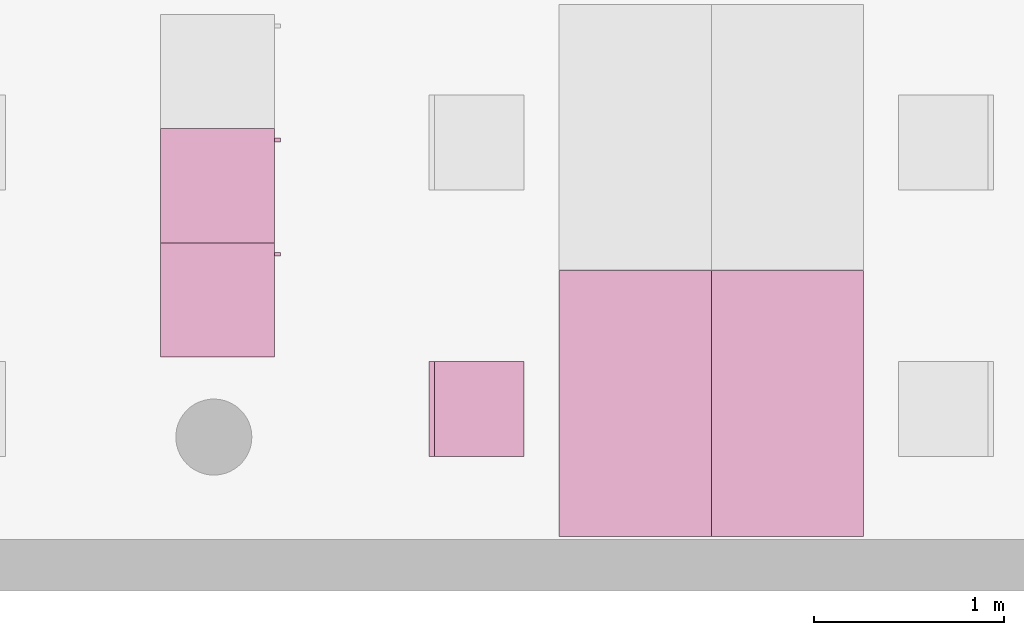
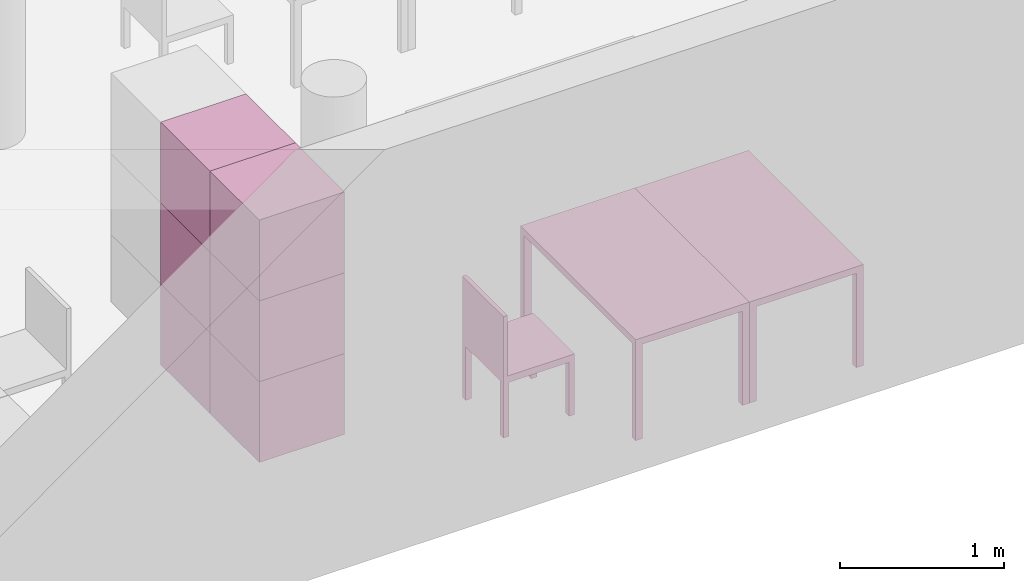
"""IFC4 building model written with IfcOpenShell, lengths in metres."""

from ifc_helpers import new_model, entity, si_unit, converted_unit, derived_unit, frame, origin, place, context, subcontext, project, spatial, faceted_brep, element, save


model = new_model("IFC4")

# Units and contexts
model_context = context("Model", 3, precision=1e-05, world=origin())
body_context = subcontext(model_context, "Body", "Model", "MODEL_VIEW")
ifc_project = project(units=[si_unit("LENGTHUNIT", "METRE"), si_unit("AREAUNIT", "SQUARE_METRE"), si_unit("VOLUMEUNIT", "CUBIC_METRE"), si_unit("MASSUNIT", "GRAM", prefix="KILO"), converted_unit("PLANEANGLEUNIT", "DEGREE", entity("IfcPlaneAngleMeasure", 0.0174532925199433), si_unit("PLANEANGLEUNIT", "RADIAN"), dimensions=[0, 0, 0, 0, 0, 0, 0]), derived_unit("THERMALTRANSMITTANCEUNIT", [(si_unit("POWERUNIT", "WATT"), 1), (si_unit("THERMODYNAMICTEMPERATUREUNIT", "KELVIN"), -1), (si_unit("LENGTHUNIT", "METRE"), -2)]), derived_unit("VOLUMETRICFLOWRATEUNIT", [(si_unit("LENGTHUNIT", "METRE"), 3), (converted_unit("TIMEUNIT", "hour", entity("IfcTimeMeasure", 3600.0), si_unit("TIMEUNIT", "SECOND"), dimensions=[0, 0, 1, 0, 0, 0, 0]), -1), (si_unit("LENGTHUNIT", "METRE"), -1)])], contexts=[model_context])

# Building, storeys
building_placement = place(None, origin())
building = spatial("IfcBuilding", under=ifc_project, at=building_placement, Name="HABITATGE PLURIFAMILIAR", CompositionType="ELEMENT")
storey_1_placement = place(building_placement, frame((0.0, 0.0, 12.27)))
storey_1 = spatial("IfcBuildingStorey", under=building, at=storey_1_placement, Name="PLANTA TERCERA", CompositionType="ELEMENT", Elevation=12.27)
storey_2_placement = place(storey_1_placement, frame((0.0, 0.0, 9.26)))
storey_2 = spatial("IfcBuildingStorey", under=storey_1, at=storey_2_placement, Name="NOU", CompositionType="PARTIAL")

# Furniture
furniture_1_placement = place(storey_2_placement, frame((418.75287675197, 13.1268712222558, -9.3599999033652)))
element("IfcFurniture", 1, at=furniture_1_placement, inside=storey_2, Name="Taula 140X80_P3", context=body_context, shape_type="Brep", body=[
    faceted_brep([(0.05, 0.0437500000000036, 0.0), (0.0, 0.0437500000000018, 0.0), (0.0, 0.0, 0.0), (0.05, 0.0, 0.0), (0.0, 0.0437500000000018, 0.7), (0.05, 0.0437500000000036, 0.7), (0.05, 0.0, 0.7), (0.0, 0.0, 0.7)], [[[0, 1, 2, 3]], [[4, 5, 6, 7]], [[1, 0, 5, 4]], [[2, 1, 4, 7]], [[3, 2, 7, 6]], [[0, 3, 6, 5]]], orient=[[False], [False], [False], [False], [False], [False]]),
    faceted_brep([(0.800069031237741, 0.0437500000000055, 0.0), (0.750069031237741, 0.0437500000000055, 0.0), (0.750069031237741, 0.0, 0.0), (0.800069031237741, 0.0, 0.0), (0.750069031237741, 0.0437500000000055, 0.7), (0.800069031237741, 0.0437500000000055, 0.7), (0.800069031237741, 0.0, 0.7), (0.750069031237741, 0.0, 0.7)], [[[0, 1, 2, 3]], [[4, 5, 6, 7]], [[1, 0, 5, 4]], [[2, 1, 4, 7]], [[3, 2, 7, 6]], [[0, 3, 6, 5]]], orient=[[False], [False], [False], [False], [False], [False]]),
    faceted_brep([(0.800069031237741, 1.39732768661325, 0.7), (0.0, 1.39732768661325, 0.7), (0.0, 0.0, 0.7), (0.800069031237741, 0.0, 0.7), (0.0, 1.39732768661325, 0.75), (0.800069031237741, 1.39732768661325, 0.75), (0.800069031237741, 0.0, 0.75), (0.0, 0.0, 0.75)], [[[0, 1, 2, 3]], [[4, 5, 6, 7]], [[1, 0, 5, 4]], [[2, 1, 4, 7]], [[3, 2, 7, 6]], [[0, 3, 6, 5]]], orient=[[False], [False], [False], [False], [False], [False]]),
    faceted_brep([(0.05, 1.39732768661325, 0.0), (0.0, 1.39732768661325, 0.0), (0.0, 1.35357768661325, 0.0), (0.05, 1.35357768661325, 0.0), (0.0, 1.39732768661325, 0.7), (0.05, 1.39732768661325, 0.7), (0.05, 1.35357768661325, 0.7), (0.0, 1.35357768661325, 0.7)], [[[0, 1, 2, 3]], [[4, 5, 6, 7]], [[1, 0, 5, 4]], [[2, 1, 4, 7]], [[3, 2, 7, 6]], [[0, 3, 6, 5]]], orient=[[False], [False], [False], [False], [False], [False]]),
    faceted_brep([(0.800069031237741, 1.39732768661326, 0.0), (0.750069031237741, 1.39732768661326, 0.0), (0.750069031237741, 1.35357768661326, 0.0), (0.800069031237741, 1.35357768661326, 0.0), (0.750069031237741, 1.39732768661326, 0.7), (0.800069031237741, 1.39732768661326, 0.7), (0.800069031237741, 1.35357768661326, 0.7), (0.750069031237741, 1.35357768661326, 0.7)], [[[0, 1, 2, 3]], [[4, 5, 6, 7]], [[1, 0, 5, 4]], [[2, 1, 4, 7]], [[3, 2, 7, 6]], [[0, 3, 6, 5]]], orient=[[False], [False], [False], [False], [False], [False]]),
])
furniture_2_placement = place(storey_2_placement, frame((417.952807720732, 13.1268712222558, -9.3599999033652)))
element("IfcFurniture", 2, at=furniture_2_placement, inside=storey_2, Name="Taula 140X80_P3", context=body_context, shape_type="Brep", body=[
    faceted_brep([(0.750069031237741, 0.0437500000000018, 0.0), (0.750069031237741, 0.0, 0.0), (0.800069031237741, 0.0, 0.0), (0.800069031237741, 0.0437500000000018, 0.0), (0.800069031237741, 0.0437500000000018, 0.7), (0.800069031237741, 0.0, 0.7), (0.750069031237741, 0.0, 0.7), (0.750069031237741, 0.0437500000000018, 0.7)], [[[0, 1, 2, 3]], [[4, 5, 6, 7]], [[3, 4, 7, 0]], [[2, 5, 4, 3]], [[1, 6, 5, 2]], [[0, 7, 6, 1]]], orient=[[False], [False], [False], [False], [False], [False]]),
    faceted_brep([(0.0, 0.0437500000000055, 0.0), (0.0, 0.0, 0.0), (0.05, 0.0, 0.0), (0.05, 0.0437500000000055, 0.0), (0.05, 0.0437500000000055, 0.7), (0.05, 0.0, 0.7), (0.0, 0.0, 0.7), (0.0, 0.0437500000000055, 0.7)], [[[0, 1, 2, 3]], [[4, 5, 6, 7]], [[3, 4, 7, 0]], [[2, 5, 4, 3]], [[1, 6, 5, 2]], [[0, 7, 6, 1]]], orient=[[False], [False], [False], [False], [False], [False]]),
    faceted_brep([(0.0, 1.39732768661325, 0.7), (0.0, 0.0, 0.7), (0.800069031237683, 0.0, 0.7), (0.800069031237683, 1.39732768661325, 0.7), (0.800069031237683, 1.39732768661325, 0.75), (0.800069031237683, 0.0, 0.75), (0.0, 0.0, 0.75), (0.0, 1.39732768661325, 0.75)], [[[0, 1, 2, 3]], [[4, 5, 6, 7]], [[3, 4, 7, 0]], [[2, 5, 4, 3]], [[1, 6, 5, 2]], [[0, 7, 6, 1]]], orient=[[False], [False], [False], [False], [False], [False]]),
    faceted_brep([(0.750069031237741, 1.39732768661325, 0.0), (0.750069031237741, 1.35357768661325, 0.0), (0.800069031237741, 1.35357768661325, 0.0), (0.800069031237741, 1.39732768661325, 0.0), (0.800069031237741, 1.39732768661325, 0.7), (0.800069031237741, 1.35357768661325, 0.7), (0.750069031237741, 1.35357768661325, 0.7), (0.750069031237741, 1.39732768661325, 0.7)], [[[0, 1, 2, 3]], [[4, 5, 6, 7]], [[3, 4, 7, 0]], [[2, 5, 4, 3]], [[1, 6, 5, 2]], [[0, 7, 6, 1]]], orient=[[False], [False], [False], [False], [False], [False]]),
    faceted_brep([(0.0, 1.39732768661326, 0.0), (0.0, 1.35357768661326, 0.0), (0.05, 1.35357768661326, 0.0), (0.05, 1.39732768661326, 0.0), (0.05, 1.39732768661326, 0.7), (0.05, 1.35357768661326, 0.7), (0.0, 1.35357768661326, 0.7), (0.0, 1.39732768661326, 0.7)], [[[0, 1, 2, 3]], [[4, 5, 6, 7]], [[3, 4, 7, 0]], [[2, 5, 4, 3]], [[1, 6, 5, 2]], [[0, 7, 6, 1]]], orient=[[False], [False], [False], [False], [False], [False]]),
])
furniture_3_placement = place(storey_2_placement, frame((415.856984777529, 14.6711705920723, -9.3599999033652)))
element("IfcFurniture", 3, at=furniture_3_placement, inside=storey_2, Name="Armai 60x60x60_P3", context=body_context, shape_type="Brep", body=[
    faceted_brep([(0.6, 0.600000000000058, 0.02), (0.6, 0.600000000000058, 0.0), (0.6, 0.0, 0.0), (0.6, 0.0, 0.02), (0.0, 0.0, 0.0), (0.0, 0.0, 0.02), (0.0, 0.600000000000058, 0.0), (0.0, 0.600000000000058, 0.02)], [[[0, 1, 2, 3]], [[3, 2, 4, 5]], [[5, 4, 6, 7]], [[7, 6, 1, 0]], [[0, 3, 5, 7]], [[1, 6, 4, 2]]], orient=[[False], [False], [False], [False], [False], [False]]),
    faceted_brep([(0.0, 0.02, 0.58), (0.0200000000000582, 0.02, 0.58), (0.0200000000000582, 0.02, 0.02), (0.0, 0.02, 0.02), (0.0200000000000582, 0.58, 0.02), (0.0, 0.58, 0.02), (0.0200000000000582, 0.58, 0.58), (0.0, 0.58, 0.58)], [[[0, 1, 2, 3]], [[3, 2, 4, 5]], [[5, 4, 6, 7]], [[7, 6, 1, 0]], [[0, 3, 5, 7]], [[1, 6, 4, 2]]], orient=[[False], [False], [False], [False], [False], [False]]),
    faceted_brep([(0.6, 0.58, 0.58), (0.6, 0.6, 0.58), (0.6, 0.6, 0.02), (0.6, 0.58, 0.02), (0.0, 0.6, 0.02), (0.0, 0.58, 0.02), (0.0, 0.6, 0.58), (0.0, 0.58, 0.58)], [[[0, 1, 2, 3]], [[3, 2, 4, 5]], [[5, 4, 6, 7]], [[7, 6, 1, 0]], [[0, 3, 5, 7]], [[1, 6, 4, 2]]], orient=[[False], [False], [False], [False], [False], [False]]),
    faceted_brep([(0.58, 0.600000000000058, 0.58), (0.6, 0.600000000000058, 0.58), (0.6, 0.600000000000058, 0.02), (0.58, 0.600000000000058, 0.02), (0.6, 0.580000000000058, 0.02), (0.58, 0.580000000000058, 0.02), (0.6, 0.580000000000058, 0.58), (0.58, 0.580000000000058, 0.58)], [[[0, 1, 2, 3]], [[3, 2, 4, 5]], [[5, 4, 6, 7]], [[7, 6, 1, 0]], [[0, 3, 5, 7]], [[1, 6, 4, 2]]], orient=[[False], [False], [False], [False], [False], [False]]),
    faceted_brep([(0.6, 0.0, 0.58), (0.6, 0.0200000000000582, 0.58), (0.6, 0.0200000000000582, 0.02), (0.6, 0.0, 0.02), (0.0, 0.0200000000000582, 0.02), (0.0, 0.0, 0.02), (0.0, 0.0200000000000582, 0.58), (0.0, 0.0, 0.58)], [[[0, 1, 2, 3]], [[3, 2, 4, 5]], [[5, 4, 6, 7]], [[7, 6, 1, 0]], [[0, 3, 5, 7]], [[1, 6, 4, 2]]], orient=[[False], [False], [False], [False], [False], [False]]),
    faceted_brep([(0.600000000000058, 0.6, 0.6), (0.600000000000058, 0.6, 0.58), (0.600000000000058, 0.0, 0.58), (0.600000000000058, 0.0, 0.6), (0.0, 0.0, 0.58), (0.0, 0.0, 0.6), (0.0, 0.6, 0.58), (0.0, 0.6, 0.6)], [[[0, 1, 2, 3]], [[3, 2, 4, 5]], [[5, 4, 6, 7]], [[7, 6, 1, 0]], [[0, 3, 5, 7]], [[1, 6, 4, 2]]], orient=[[False], [False], [False], [False], [False], [False]]),
    faceted_brep([(0.580000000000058, 0.02, 0.58), (0.600000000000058, 0.02, 0.58), (0.600000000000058, 0.02, 0.02), (0.580000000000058, 0.02, 0.02), (0.600000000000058, 0.580000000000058, 0.02), (0.580000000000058, 0.580000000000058, 0.02), (0.600000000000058, 0.580000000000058, 0.58), (0.580000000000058, 0.580000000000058, 0.58)], [[[0, 1, 2, 3]], [[3, 2, 4, 5]], [[5, 4, 6, 7]], [[7, 6, 1, 0]], [[0, 3, 5, 7]], [[1, 6, 4, 2]]], orient=[[False], [False], [False], [False], [False], [False]]),
    faceted_brep([(0.600000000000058, 0.53, 0.358064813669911), (0.630000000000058, 0.53, 0.358064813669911), (0.630000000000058, 0.53, 0.258064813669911), (0.600000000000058, 0.53, 0.258064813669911), (0.630000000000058, 0.55, 0.258064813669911), (0.600000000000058, 0.55, 0.258064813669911), (0.630000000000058, 0.55, 0.358064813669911), (0.600000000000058, 0.55, 0.358064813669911)], [[[0, 1, 2, 3]], [[3, 2, 4, 5]], [[5, 4, 6, 7]], [[7, 6, 1, 0]], [[0, 3, 5, 7]], [[1, 6, 4, 2]]], orient=[[False], [False], [False], [False], [False], [False]]),
])
furniture_4_placement = place(storey_2_placement, frame((415.856984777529, 14.0711705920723, -9.3599999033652)))
element("IfcFurniture", 4, at=furniture_4_placement, inside=storey_2, Name="Armai 60x60x60_P3", context=body_context, shape_type="Brep", body=[
    faceted_brep([(0.6, 0.600000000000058, 0.02), (0.6, 0.600000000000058, 0.0), (0.6, 0.0, 0.0), (0.6, 0.0, 0.02), (0.0, 0.0, 0.0), (0.0, 0.0, 0.02), (0.0, 0.600000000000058, 0.0), (0.0, 0.600000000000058, 0.02)], [[[0, 1, 2, 3]], [[3, 2, 4, 5]], [[5, 4, 6, 7]], [[7, 6, 1, 0]], [[0, 3, 5, 7]], [[1, 6, 4, 2]]], orient=[[False], [False], [False], [False], [False], [False]]),
    faceted_brep([(0.0, 0.02, 0.58), (0.0200000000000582, 0.02, 0.58), (0.0200000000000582, 0.02, 0.02), (0.0, 0.02, 0.02), (0.0200000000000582, 0.58, 0.02), (0.0, 0.58, 0.02), (0.0200000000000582, 0.58, 0.58), (0.0, 0.58, 0.58)], [[[0, 1, 2, 3]], [[3, 2, 4, 5]], [[5, 4, 6, 7]], [[7, 6, 1, 0]], [[0, 3, 5, 7]], [[1, 6, 4, 2]]], orient=[[False], [False], [False], [False], [False], [False]]),
    faceted_brep([(0.6, 0.58, 0.58), (0.6, 0.6, 0.58), (0.6, 0.6, 0.02), (0.6, 0.58, 0.02), (0.0, 0.6, 0.02), (0.0, 0.58, 0.02), (0.0, 0.6, 0.58), (0.0, 0.58, 0.58)], [[[0, 1, 2, 3]], [[3, 2, 4, 5]], [[5, 4, 6, 7]], [[7, 6, 1, 0]], [[0, 3, 5, 7]], [[1, 6, 4, 2]]], orient=[[False], [False], [False], [False], [False], [False]]),
    faceted_brep([(0.58, 0.600000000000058, 0.58), (0.6, 0.600000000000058, 0.58), (0.6, 0.600000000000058, 0.02), (0.58, 0.600000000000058, 0.02), (0.6, 0.580000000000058, 0.02), (0.58, 0.580000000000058, 0.02), (0.6, 0.580000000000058, 0.58), (0.58, 0.580000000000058, 0.58)], [[[0, 1, 2, 3]], [[3, 2, 4, 5]], [[5, 4, 6, 7]], [[7, 6, 1, 0]], [[0, 3, 5, 7]], [[1, 6, 4, 2]]], orient=[[False], [False], [False], [False], [False], [False]]),
    faceted_brep([(0.6, 0.0, 0.58), (0.6, 0.0200000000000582, 0.58), (0.6, 0.0200000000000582, 0.02), (0.6, 0.0, 0.02), (0.0, 0.0200000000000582, 0.02), (0.0, 0.0, 0.02), (0.0, 0.0200000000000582, 0.58), (0.0, 0.0, 0.58)], [[[0, 1, 2, 3]], [[3, 2, 4, 5]], [[5, 4, 6, 7]], [[7, 6, 1, 0]], [[0, 3, 5, 7]], [[1, 6, 4, 2]]], orient=[[False], [False], [False], [False], [False], [False]]),
    faceted_brep([(0.600000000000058, 0.6, 0.6), (0.600000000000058, 0.6, 0.58), (0.600000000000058, 0.0, 0.58), (0.600000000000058, 0.0, 0.6), (0.0, 0.0, 0.58), (0.0, 0.0, 0.6), (0.0, 0.6, 0.58), (0.0, 0.6, 0.6)], [[[0, 1, 2, 3]], [[3, 2, 4, 5]], [[5, 4, 6, 7]], [[7, 6, 1, 0]], [[0, 3, 5, 7]], [[1, 6, 4, 2]]], orient=[[False], [False], [False], [False], [False], [False]]),
    faceted_brep([(0.580000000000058, 0.02, 0.58), (0.600000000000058, 0.02, 0.58), (0.600000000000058, 0.02, 0.02), (0.580000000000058, 0.02, 0.02), (0.600000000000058, 0.580000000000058, 0.02), (0.580000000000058, 0.580000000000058, 0.02), (0.600000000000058, 0.580000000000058, 0.58), (0.580000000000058, 0.580000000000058, 0.58)], [[[0, 1, 2, 3]], [[3, 2, 4, 5]], [[5, 4, 6, 7]], [[7, 6, 1, 0]], [[0, 3, 5, 7]], [[1, 6, 4, 2]]], orient=[[False], [False], [False], [False], [False], [False]]),
    faceted_brep([(0.600000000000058, 0.53, 0.358064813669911), (0.630000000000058, 0.53, 0.358064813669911), (0.630000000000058, 0.53, 0.258064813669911), (0.600000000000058, 0.53, 0.258064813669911), (0.630000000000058, 0.55, 0.258064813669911), (0.600000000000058, 0.55, 0.258064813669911), (0.630000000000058, 0.55, 0.358064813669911), (0.600000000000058, 0.55, 0.358064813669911)], [[[0, 1, 2, 3]], [[3, 2, 4, 5]], [[5, 4, 6, 7]], [[7, 6, 1, 0]], [[0, 3, 5, 7]], [[1, 6, 4, 2]]], orient=[[False], [False], [False], [False], [False], [False]]),
])
furniture_5_placement = place(storey_2_placement, frame((415.856984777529, 14.6711705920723, -8.7599999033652)))
element("IfcFurniture", 5, at=furniture_5_placement, inside=storey_2, Name="Armai 60x60x60_P3", context=body_context, shape_type="Brep", body=[
    faceted_brep([(0.6, 0.600000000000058, 0.02), (0.6, 0.600000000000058, 0.0), (0.6, 0.0, 0.0), (0.6, 0.0, 0.02), (0.0, 0.0, 0.0), (0.0, 0.0, 0.02), (0.0, 0.600000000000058, 0.0), (0.0, 0.600000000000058, 0.02)], [[[0, 1, 2, 3]], [[3, 2, 4, 5]], [[5, 4, 6, 7]], [[7, 6, 1, 0]], [[0, 3, 5, 7]], [[1, 6, 4, 2]]], orient=[[False], [False], [False], [False], [False], [False]]),
    faceted_brep([(0.0, 0.02, 0.58), (0.0200000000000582, 0.02, 0.58), (0.0200000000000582, 0.02, 0.02), (0.0, 0.02, 0.02), (0.0200000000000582, 0.58, 0.02), (0.0, 0.58, 0.02), (0.0200000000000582, 0.58, 0.58), (0.0, 0.58, 0.58)], [[[0, 1, 2, 3]], [[3, 2, 4, 5]], [[5, 4, 6, 7]], [[7, 6, 1, 0]], [[0, 3, 5, 7]], [[1, 6, 4, 2]]], orient=[[False], [False], [False], [False], [False], [False]]),
    faceted_brep([(0.6, 0.58, 0.58), (0.6, 0.6, 0.58), (0.6, 0.6, 0.02), (0.6, 0.58, 0.02), (0.0, 0.6, 0.02), (0.0, 0.58, 0.02), (0.0, 0.6, 0.58), (0.0, 0.58, 0.58)], [[[0, 1, 2, 3]], [[3, 2, 4, 5]], [[5, 4, 6, 7]], [[7, 6, 1, 0]], [[0, 3, 5, 7]], [[1, 6, 4, 2]]], orient=[[False], [False], [False], [False], [False], [False]]),
    faceted_brep([(0.58, 0.600000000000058, 0.58), (0.6, 0.600000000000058, 0.58), (0.6, 0.600000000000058, 0.02), (0.58, 0.600000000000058, 0.02), (0.6, 0.580000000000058, 0.02), (0.58, 0.580000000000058, 0.02), (0.6, 0.580000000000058, 0.58), (0.58, 0.580000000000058, 0.58)], [[[0, 1, 2, 3]], [[3, 2, 4, 5]], [[5, 4, 6, 7]], [[7, 6, 1, 0]], [[0, 3, 5, 7]], [[1, 6, 4, 2]]], orient=[[False], [False], [False], [False], [False], [False]]),
    faceted_brep([(0.6, 0.0, 0.58), (0.6, 0.0200000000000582, 0.58), (0.6, 0.0200000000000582, 0.02), (0.6, 0.0, 0.02), (0.0, 0.0200000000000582, 0.02), (0.0, 0.0, 0.02), (0.0, 0.0200000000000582, 0.58), (0.0, 0.0, 0.58)], [[[0, 1, 2, 3]], [[3, 2, 4, 5]], [[5, 4, 6, 7]], [[7, 6, 1, 0]], [[0, 3, 5, 7]], [[1, 6, 4, 2]]], orient=[[False], [False], [False], [False], [False], [False]]),
    faceted_brep([(0.600000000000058, 0.6, 0.6), (0.600000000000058, 0.6, 0.58), (0.600000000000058, 0.0, 0.58), (0.600000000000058, 0.0, 0.6), (0.0, 0.0, 0.58), (0.0, 0.0, 0.6), (0.0, 0.6, 0.58), (0.0, 0.6, 0.6)], [[[0, 1, 2, 3]], [[3, 2, 4, 5]], [[5, 4, 6, 7]], [[7, 6, 1, 0]], [[0, 3, 5, 7]], [[1, 6, 4, 2]]], orient=[[False], [False], [False], [False], [False], [False]]),
    faceted_brep([(0.580000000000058, 0.02, 0.58), (0.600000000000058, 0.02, 0.58), (0.600000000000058, 0.02, 0.02), (0.580000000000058, 0.02, 0.02), (0.600000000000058, 0.580000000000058, 0.02), (0.580000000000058, 0.580000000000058, 0.02), (0.600000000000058, 0.580000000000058, 0.58), (0.580000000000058, 0.580000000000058, 0.58)], [[[0, 1, 2, 3]], [[3, 2, 4, 5]], [[5, 4, 6, 7]], [[7, 6, 1, 0]], [[0, 3, 5, 7]], [[1, 6, 4, 2]]], orient=[[False], [False], [False], [False], [False], [False]]),
    faceted_brep([(0.600000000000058, 0.53, 0.358064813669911), (0.630000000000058, 0.53, 0.358064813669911), (0.630000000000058, 0.53, 0.258064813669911), (0.600000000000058, 0.53, 0.258064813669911), (0.630000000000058, 0.55, 0.258064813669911), (0.600000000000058, 0.55, 0.258064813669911), (0.630000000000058, 0.55, 0.358064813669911), (0.600000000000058, 0.55, 0.358064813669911)], [[[0, 1, 2, 3]], [[3, 2, 4, 5]], [[5, 4, 6, 7]], [[7, 6, 1, 0]], [[0, 3, 5, 7]], [[1, 6, 4, 2]]], orient=[[False], [False], [False], [False], [False], [False]]),
])
furniture_6_placement = place(storey_2_placement, frame((415.856984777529, 14.0711705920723, -8.7599999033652)))
element("IfcFurniture", 6, at=furniture_6_placement, inside=storey_2, Name="Armai 60x60x60_P3", context=body_context, shape_type="Brep", body=[
    faceted_brep([(0.6, 0.600000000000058, 0.02), (0.6, 0.600000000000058, 0.0), (0.6, 0.0, 0.0), (0.6, 0.0, 0.02), (0.0, 0.0, 0.0), (0.0, 0.0, 0.02), (0.0, 0.600000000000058, 0.0), (0.0, 0.600000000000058, 0.02)], [[[0, 1, 2, 3]], [[3, 2, 4, 5]], [[5, 4, 6, 7]], [[7, 6, 1, 0]], [[0, 3, 5, 7]], [[1, 6, 4, 2]]], orient=[[False], [False], [False], [False], [False], [False]]),
    faceted_brep([(0.0, 0.02, 0.58), (0.0200000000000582, 0.02, 0.58), (0.0200000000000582, 0.02, 0.02), (0.0, 0.02, 0.02), (0.0200000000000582, 0.58, 0.02), (0.0, 0.58, 0.02), (0.0200000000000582, 0.58, 0.58), (0.0, 0.58, 0.58)], [[[0, 1, 2, 3]], [[3, 2, 4, 5]], [[5, 4, 6, 7]], [[7, 6, 1, 0]], [[0, 3, 5, 7]], [[1, 6, 4, 2]]], orient=[[False], [False], [False], [False], [False], [False]]),
    faceted_brep([(0.6, 0.58, 0.58), (0.6, 0.6, 0.58), (0.6, 0.6, 0.02), (0.6, 0.58, 0.02), (0.0, 0.6, 0.02), (0.0, 0.58, 0.02), (0.0, 0.6, 0.58), (0.0, 0.58, 0.58)], [[[0, 1, 2, 3]], [[3, 2, 4, 5]], [[5, 4, 6, 7]], [[7, 6, 1, 0]], [[0, 3, 5, 7]], [[1, 6, 4, 2]]], orient=[[False], [False], [False], [False], [False], [False]]),
    faceted_brep([(0.58, 0.600000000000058, 0.58), (0.6, 0.600000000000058, 0.58), (0.6, 0.600000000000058, 0.02), (0.58, 0.600000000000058, 0.02), (0.6, 0.580000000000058, 0.02), (0.58, 0.580000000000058, 0.02), (0.6, 0.580000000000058, 0.58), (0.58, 0.580000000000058, 0.58)], [[[0, 1, 2, 3]], [[3, 2, 4, 5]], [[5, 4, 6, 7]], [[7, 6, 1, 0]], [[0, 3, 5, 7]], [[1, 6, 4, 2]]], orient=[[False], [False], [False], [False], [False], [False]]),
    faceted_brep([(0.6, 0.0, 0.58), (0.6, 0.0200000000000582, 0.58), (0.6, 0.0200000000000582, 0.02), (0.6, 0.0, 0.02), (0.0, 0.0200000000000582, 0.02), (0.0, 0.0, 0.02), (0.0, 0.0200000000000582, 0.58), (0.0, 0.0, 0.58)], [[[0, 1, 2, 3]], [[3, 2, 4, 5]], [[5, 4, 6, 7]], [[7, 6, 1, 0]], [[0, 3, 5, 7]], [[1, 6, 4, 2]]], orient=[[False], [False], [False], [False], [False], [False]]),
    faceted_brep([(0.600000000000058, 0.6, 0.6), (0.600000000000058, 0.6, 0.58), (0.600000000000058, 0.0, 0.58), (0.600000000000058, 0.0, 0.6), (0.0, 0.0, 0.58), (0.0, 0.0, 0.6), (0.0, 0.6, 0.58), (0.0, 0.6, 0.6)], [[[0, 1, 2, 3]], [[3, 2, 4, 5]], [[5, 4, 6, 7]], [[7, 6, 1, 0]], [[0, 3, 5, 7]], [[1, 6, 4, 2]]], orient=[[False], [False], [False], [False], [False], [False]]),
    faceted_brep([(0.580000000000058, 0.02, 0.58), (0.600000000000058, 0.02, 0.58), (0.600000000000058, 0.02, 0.02), (0.580000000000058, 0.02, 0.02), (0.600000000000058, 0.580000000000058, 0.02), (0.580000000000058, 0.580000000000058, 0.02), (0.600000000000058, 0.580000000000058, 0.58), (0.580000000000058, 0.580000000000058, 0.58)], [[[0, 1, 2, 3]], [[3, 2, 4, 5]], [[5, 4, 6, 7]], [[7, 6, 1, 0]], [[0, 3, 5, 7]], [[1, 6, 4, 2]]], orient=[[False], [False], [False], [False], [False], [False]]),
    faceted_brep([(0.600000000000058, 0.53, 0.358064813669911), (0.630000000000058, 0.53, 0.358064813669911), (0.630000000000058, 0.53, 0.258064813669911), (0.600000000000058, 0.53, 0.258064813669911), (0.630000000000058, 0.55, 0.258064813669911), (0.600000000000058, 0.55, 0.258064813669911), (0.630000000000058, 0.55, 0.358064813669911), (0.600000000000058, 0.55, 0.358064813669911)], [[[0, 1, 2, 3]], [[3, 2, 4, 5]], [[5, 4, 6, 7]], [[7, 6, 1, 0]], [[0, 3, 5, 7]], [[1, 6, 4, 2]]], orient=[[False], [False], [False], [False], [False], [False]]),
])
furniture_7_placement = place(storey_2_placement, frame((415.856984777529, 14.6711705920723, -8.1599999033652)))
element("IfcFurniture", 7, at=furniture_7_placement, inside=storey_2, Name="Armai 60x60x60_P3", context=body_context, shape_type="Brep", body=[
    faceted_brep([(0.6, 0.600000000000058, 0.02), (0.6, 0.600000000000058, 0.0), (0.6, 0.0, 0.0), (0.6, 0.0, 0.02), (0.0, 0.0, 0.0), (0.0, 0.0, 0.02), (0.0, 0.600000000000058, 0.0), (0.0, 0.600000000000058, 0.02)], [[[0, 1, 2, 3]], [[3, 2, 4, 5]], [[5, 4, 6, 7]], [[7, 6, 1, 0]], [[0, 3, 5, 7]], [[1, 6, 4, 2]]], orient=[[False], [False], [False], [False], [False], [False]]),
    faceted_brep([(0.0, 0.02, 0.58), (0.0200000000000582, 0.02, 0.58), (0.0200000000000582, 0.02, 0.02), (0.0, 0.02, 0.02), (0.0200000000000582, 0.58, 0.02), (0.0, 0.58, 0.02), (0.0200000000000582, 0.58, 0.58), (0.0, 0.58, 0.58)], [[[0, 1, 2, 3]], [[3, 2, 4, 5]], [[5, 4, 6, 7]], [[7, 6, 1, 0]], [[0, 3, 5, 7]], [[1, 6, 4, 2]]], orient=[[False], [False], [False], [False], [False], [False]]),
    faceted_brep([(0.6, 0.58, 0.58), (0.6, 0.6, 0.58), (0.6, 0.6, 0.02), (0.6, 0.58, 0.02), (0.0, 0.6, 0.02), (0.0, 0.58, 0.02), (0.0, 0.6, 0.58), (0.0, 0.58, 0.58)], [[[0, 1, 2, 3]], [[3, 2, 4, 5]], [[5, 4, 6, 7]], [[7, 6, 1, 0]], [[0, 3, 5, 7]], [[1, 6, 4, 2]]], orient=[[False], [False], [False], [False], [False], [False]]),
    faceted_brep([(0.58, 0.600000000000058, 0.58), (0.6, 0.600000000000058, 0.58), (0.6, 0.600000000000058, 0.02), (0.58, 0.600000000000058, 0.02), (0.6, 0.580000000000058, 0.02), (0.58, 0.580000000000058, 0.02), (0.6, 0.580000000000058, 0.58), (0.58, 0.580000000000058, 0.58)], [[[0, 1, 2, 3]], [[3, 2, 4, 5]], [[5, 4, 6, 7]], [[7, 6, 1, 0]], [[0, 3, 5, 7]], [[1, 6, 4, 2]]], orient=[[False], [False], [False], [False], [False], [False]]),
    faceted_brep([(0.6, 0.0, 0.58), (0.6, 0.0200000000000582, 0.58), (0.6, 0.0200000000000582, 0.02), (0.6, 0.0, 0.02), (0.0, 0.0200000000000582, 0.02), (0.0, 0.0, 0.02), (0.0, 0.0200000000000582, 0.58), (0.0, 0.0, 0.58)], [[[0, 1, 2, 3]], [[3, 2, 4, 5]], [[5, 4, 6, 7]], [[7, 6, 1, 0]], [[0, 3, 5, 7]], [[1, 6, 4, 2]]], orient=[[False], [False], [False], [False], [False], [False]]),
    faceted_brep([(0.600000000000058, 0.6, 0.6), (0.600000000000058, 0.6, 0.58), (0.600000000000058, 0.0, 0.58), (0.600000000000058, 0.0, 0.6), (0.0, 0.0, 0.58), (0.0, 0.0, 0.6), (0.0, 0.6, 0.58), (0.0, 0.6, 0.6)], [[[0, 1, 2, 3]], [[3, 2, 4, 5]], [[5, 4, 6, 7]], [[7, 6, 1, 0]], [[0, 3, 5, 7]], [[1, 6, 4, 2]]], orient=[[False], [False], [False], [False], [False], [False]]),
    faceted_brep([(0.580000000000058, 0.02, 0.58), (0.600000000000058, 0.02, 0.58), (0.600000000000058, 0.02, 0.02), (0.580000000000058, 0.02, 0.02), (0.600000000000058, 0.580000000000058, 0.02), (0.580000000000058, 0.580000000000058, 0.02), (0.600000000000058, 0.580000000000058, 0.58), (0.580000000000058, 0.580000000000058, 0.58)], [[[0, 1, 2, 3]], [[3, 2, 4, 5]], [[5, 4, 6, 7]], [[7, 6, 1, 0]], [[0, 3, 5, 7]], [[1, 6, 4, 2]]], orient=[[False], [False], [False], [False], [False], [False]]),
    faceted_brep([(0.600000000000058, 0.53, 0.358064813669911), (0.630000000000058, 0.53, 0.358064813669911), (0.630000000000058, 0.53, 0.258064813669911), (0.600000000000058, 0.53, 0.258064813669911), (0.630000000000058, 0.55, 0.258064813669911), (0.600000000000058, 0.55, 0.258064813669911), (0.630000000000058, 0.55, 0.358064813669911), (0.600000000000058, 0.55, 0.358064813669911)], [[[0, 1, 2, 3]], [[3, 2, 4, 5]], [[5, 4, 6, 7]], [[7, 6, 1, 0]], [[0, 3, 5, 7]], [[1, 6, 4, 2]]], orient=[[False], [False], [False], [False], [False], [False]]),
])
furniture_8_placement = place(storey_2_placement, frame((415.856984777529, 14.0711705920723, -8.1599999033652)))
element("IfcFurniture", 8, at=furniture_8_placement, inside=storey_2, Name="Armai 60x60x60_P3", context=body_context, shape_type="Brep", body=[
    faceted_brep([(0.6, 0.600000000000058, 0.02), (0.6, 0.600000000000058, 0.0), (0.6, 0.0, 0.0), (0.6, 0.0, 0.02), (0.0, 0.0, 0.0), (0.0, 0.0, 0.02), (0.0, 0.600000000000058, 0.0), (0.0, 0.600000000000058, 0.02)], [[[0, 1, 2, 3]], [[3, 2, 4, 5]], [[5, 4, 6, 7]], [[7, 6, 1, 0]], [[0, 3, 5, 7]], [[1, 6, 4, 2]]], orient=[[False], [False], [False], [False], [False], [False]]),
    faceted_brep([(0.0, 0.02, 0.58), (0.0200000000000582, 0.02, 0.58), (0.0200000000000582, 0.02, 0.02), (0.0, 0.02, 0.02), (0.0200000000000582, 0.58, 0.02), (0.0, 0.58, 0.02), (0.0200000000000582, 0.58, 0.58), (0.0, 0.58, 0.58)], [[[0, 1, 2, 3]], [[3, 2, 4, 5]], [[5, 4, 6, 7]], [[7, 6, 1, 0]], [[0, 3, 5, 7]], [[1, 6, 4, 2]]], orient=[[False], [False], [False], [False], [False], [False]]),
    faceted_brep([(0.6, 0.58, 0.58), (0.6, 0.6, 0.58), (0.6, 0.6, 0.02), (0.6, 0.58, 0.02), (0.0, 0.6, 0.02), (0.0, 0.58, 0.02), (0.0, 0.6, 0.58), (0.0, 0.58, 0.58)], [[[0, 1, 2, 3]], [[3, 2, 4, 5]], [[5, 4, 6, 7]], [[7, 6, 1, 0]], [[0, 3, 5, 7]], [[1, 6, 4, 2]]], orient=[[False], [False], [False], [False], [False], [False]]),
    faceted_brep([(0.58, 0.600000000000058, 0.58), (0.6, 0.600000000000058, 0.58), (0.6, 0.600000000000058, 0.02), (0.58, 0.600000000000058, 0.02), (0.6, 0.580000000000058, 0.02), (0.58, 0.580000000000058, 0.02), (0.6, 0.580000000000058, 0.58), (0.58, 0.580000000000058, 0.58)], [[[0, 1, 2, 3]], [[3, 2, 4, 5]], [[5, 4, 6, 7]], [[7, 6, 1, 0]], [[0, 3, 5, 7]], [[1, 6, 4, 2]]], orient=[[False], [False], [False], [False], [False], [False]]),
    faceted_brep([(0.6, 0.0, 0.58), (0.6, 0.0200000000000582, 0.58), (0.6, 0.0200000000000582, 0.02), (0.6, 0.0, 0.02), (0.0, 0.0200000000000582, 0.02), (0.0, 0.0, 0.02), (0.0, 0.0200000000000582, 0.58), (0.0, 0.0, 0.58)], [[[0, 1, 2, 3]], [[3, 2, 4, 5]], [[5, 4, 6, 7]], [[7, 6, 1, 0]], [[0, 3, 5, 7]], [[1, 6, 4, 2]]], orient=[[False], [False], [False], [False], [False], [False]]),
    faceted_brep([(0.600000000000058, 0.6, 0.6), (0.600000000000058, 0.6, 0.58), (0.600000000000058, 0.0, 0.58), (0.600000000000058, 0.0, 0.6), (0.0, 0.0, 0.58), (0.0, 0.0, 0.6), (0.0, 0.6, 0.58), (0.0, 0.6, 0.6)], [[[0, 1, 2, 3]], [[3, 2, 4, 5]], [[5, 4, 6, 7]], [[7, 6, 1, 0]], [[0, 3, 5, 7]], [[1, 6, 4, 2]]], orient=[[False], [False], [False], [False], [False], [False]]),
    faceted_brep([(0.580000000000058, 0.02, 0.58), (0.600000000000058, 0.02, 0.58), (0.600000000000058, 0.02, 0.02), (0.580000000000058, 0.02, 0.02), (0.600000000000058, 0.580000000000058, 0.02), (0.580000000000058, 0.580000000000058, 0.02), (0.600000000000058, 0.580000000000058, 0.58), (0.580000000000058, 0.580000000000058, 0.58)], [[[0, 1, 2, 3]], [[3, 2, 4, 5]], [[5, 4, 6, 7]], [[7, 6, 1, 0]], [[0, 3, 5, 7]], [[1, 6, 4, 2]]], orient=[[False], [False], [False], [False], [False], [False]]),
    faceted_brep([(0.600000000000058, 0.53, 0.358064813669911), (0.630000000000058, 0.53, 0.358064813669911), (0.630000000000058, 0.53, 0.258064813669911), (0.600000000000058, 0.53, 0.258064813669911), (0.630000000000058, 0.55, 0.258064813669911), (0.600000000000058, 0.55, 0.258064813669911), (0.630000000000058, 0.55, 0.358064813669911), (0.600000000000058, 0.55, 0.358064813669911)], [[[0, 1, 2, 3]], [[3, 2, 4, 5]], [[5, 4, 6, 7]], [[7, 6, 1, 0]], [[0, 3, 5, 7]], [[1, 6, 4, 2]]], orient=[[False], [False], [False], [False], [False], [False]]),
])
furniture_9_placement = place(storey_2_placement, frame((417.268665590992, 13.5480313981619, -9.3546338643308)))
element("IfcFurniture", 9, at=furniture_9_placement, inside=storey_2, Name="Cadira d'Oficina_P3", context=body_context, shape_type="Brep", body=[
    faceted_brep([(0.500000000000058, 0.500000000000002, 0.4), (0.0, 0.5, 0.4), (0.0, 0.0, 0.4), (0.500000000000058, 0.0, 0.4), (0.0, 0.5, 0.45), (0.500000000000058, 0.500000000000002, 0.45), (0.500000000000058, 0.0, 0.45), (0.0, 0.0, 0.45)], [[[0, 1, 2, 3]], [[4, 5, 6, 7]], [[1, 0, 5, 4]], [[2, 1, 4, 7]], [[3, 2, 7, 6]], [[0, 3, 6, 5]]], orient=[[False], [False], [False], [False], [False], [False]]),
    faceted_brep([(0.0400000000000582, 0.0, 0.0), (0.0400000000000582, 0.0400000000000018, 0.0), (0.0, 0.04, 0.0), (0.0, 0.0, 0.0), (0.0400000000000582, 0.0400000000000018, 0.4), (0.0400000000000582, 0.0, 0.4), (0.0, 0.0, 0.4), (0.0, 0.04, 0.4)], [[[0, 1, 2, 3]], [[4, 5, 6, 7]], [[1, 0, 5, 4]], [[2, 1, 4, 7]], [[3, 2, 7, 6]], [[0, 3, 6, 5]]], orient=[[False], [False], [False], [False], [False], [False]]),
    faceted_brep([(0.500000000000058, 0.0, 0.0), (0.500000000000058, 0.0400000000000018, 0.0), (0.460000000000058, 0.0400000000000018, 0.0), (0.460000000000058, 0.0, 0.0), (0.500000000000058, 0.0400000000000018, 0.4), (0.500000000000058, 0.0, 0.4), (0.460000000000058, 0.0, 0.4), (0.460000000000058, 0.0400000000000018, 0.4)], [[[0, 1, 2, 3]], [[4, 5, 6, 7]], [[1, 0, 5, 4]], [[2, 1, 4, 7]], [[3, 2, 7, 6]], [[0, 3, 6, 5]]], orient=[[False], [False], [False], [False], [False], [False]]),
    faceted_brep([(0.04, 0.46, 0.0), (0.04, 0.5, 0.0), (0.0, 0.5, 0.0), (0.0, 0.46, 0.0), (0.04, 0.5, 0.4), (0.04, 0.46, 0.4), (0.0, 0.46, 0.4), (0.0, 0.5, 0.4)], [[[0, 1, 2, 3]], [[4, 5, 6, 7]], [[1, 0, 5, 4]], [[2, 1, 4, 7]], [[3, 2, 7, 6]], [[0, 3, 6, 5]]], orient=[[False], [False], [False], [False], [False], [False]]),
    faceted_brep([(0.500000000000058, 0.460000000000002, 0.0), (0.500000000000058, 0.500000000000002, 0.0), (0.460000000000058, 0.500000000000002, 0.0), (0.460000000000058, 0.460000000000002, 0.0), (0.500000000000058, 0.500000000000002, 0.4), (0.500000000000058, 0.460000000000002, 0.4), (0.460000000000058, 0.460000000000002, 0.4), (0.460000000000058, 0.500000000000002, 0.4)], [[[0, 1, 2, 3]], [[4, 5, 6, 7]], [[1, 0, 5, 4]], [[2, 1, 4, 7]], [[3, 2, 7, 6]], [[0, 3, 6, 5]]], orient=[[False], [False], [False], [False], [False], [False]]),
    faceted_brep([(0.0300000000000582, 0.0, 0.45), (0.03, 0.5, 0.45), (0.0, 0.5, 0.45), (0.0, 0.0, 0.45), (0.03, 0.5, 0.9), (0.0300000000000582, 0.0, 0.9), (0.0, 0.0, 0.9), (0.0, 0.5, 0.9)], [[[0, 1, 2, 3]], [[4, 5, 6, 7]], [[1, 0, 5, 4]], [[2, 1, 4, 7]], [[3, 2, 7, 6]], [[0, 3, 6, 5]]], orient=[[False], [False], [False], [False], [False], [False]]),
])

save(model, "model.ifc")
